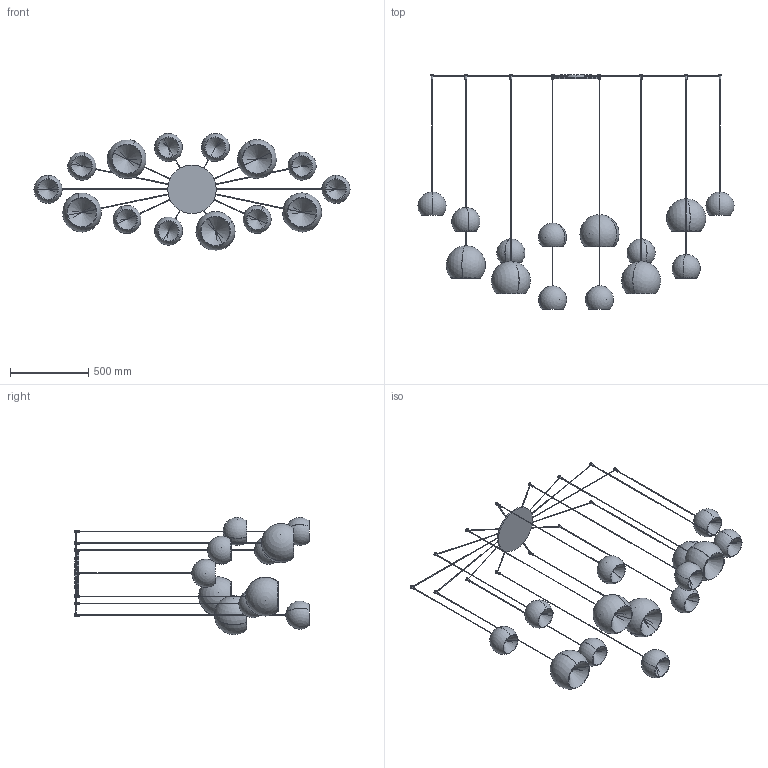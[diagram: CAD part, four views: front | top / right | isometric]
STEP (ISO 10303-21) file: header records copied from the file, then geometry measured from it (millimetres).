
FILE_DESCRIPTION (( 'STEP AP203' ), '1' );
FILE_NAME ('CRM14-00-CHERRY MIX_14 SOSPENSIONE.STEP', '2024-07-31T09:49:51', ( '' ), ( '' ), 'SwSTEP 2.0', 'SolidWorks 2022', '' );
FILE_SCHEMA (( 'CONFIG_CONTROL_DESIGN' ));
Length unit declared in the file: millimetre
Products named in the file (12): CHERRY_Lampada singola Diam.180_H=1900; CHERRY_Lampada singola Diam.180_H=1800; CHERRY MIX_Lampada singola Diam.250_H=1600; CHERRY_Lampada singola Diam.180_H=2100; CHERRY MIX_Rosone diam.310_Cherry 14<A macchina>; CRM14-00-CHERRY MIX_14 SOSPENSIONE; CHERRY_Lampada singola Diam.180_H=1500; CHERRY MIX_Lampada singola Diam.250_H=2000; CHERRY_Lampada singola Diam.180_H=1700; CHERRY MIX_Lampada singola Diam.250_H=1700; CHERRY_Lampada singola Diam.180_H=2000; CHERRY MIX_Lampada singola Diam.250_H=1900
Assembly tree (15 placements, depth 2):
  CRM14-00-CHERRY MIX_14 SOSPENSIONE
    CHERRY MIX_Rosone diam.310_Cherry 14<A macchina>
    CHERRY_Lampada singola Diam.180_H=1900
    CHERRY MIX_Lampada singola Diam.250_H=1600  x2
    CHERRY_Lampada singola Diam.180_H=2000
    CHERRY_Lampada singola Diam.180_H=2100  x2
    CHERRY MIX_Lampada singola Diam.250_H=1700
    CHERRY_Lampada singola Diam.180_H=1800  x2
    CHERRY_Lampada singola Diam.180_H=1500  x2
    CHERRY MIX_Lampada singola Diam.250_H=1900
    CHERRY MIX_Lampada singola Diam.250_H=2000
    CHERRY_Lampada singola Diam.180_H=1700
Bounding box: 2020 x 1500 x 748.75 mm (x, y, z)
Volume: 5002141.2 mm3; surface area: 4362154 mm2
Topology: 70 solids, 70 shells, 525 faces, 1258 edges, 790 vertices
Faces by surface type: cylinder 256, plane 157, sphere 56, cone 56
Entity records: 12408 total; most frequent: CARTESIAN_POINT 2649, DIRECTION 1922, ORIENTED_EDGE 1596, AXIS2_PLACEMENT_3D 851, EDGE_CURVE 798, VERTEX_POINT 530, EDGE_LOOP 438, CIRCLE 436
